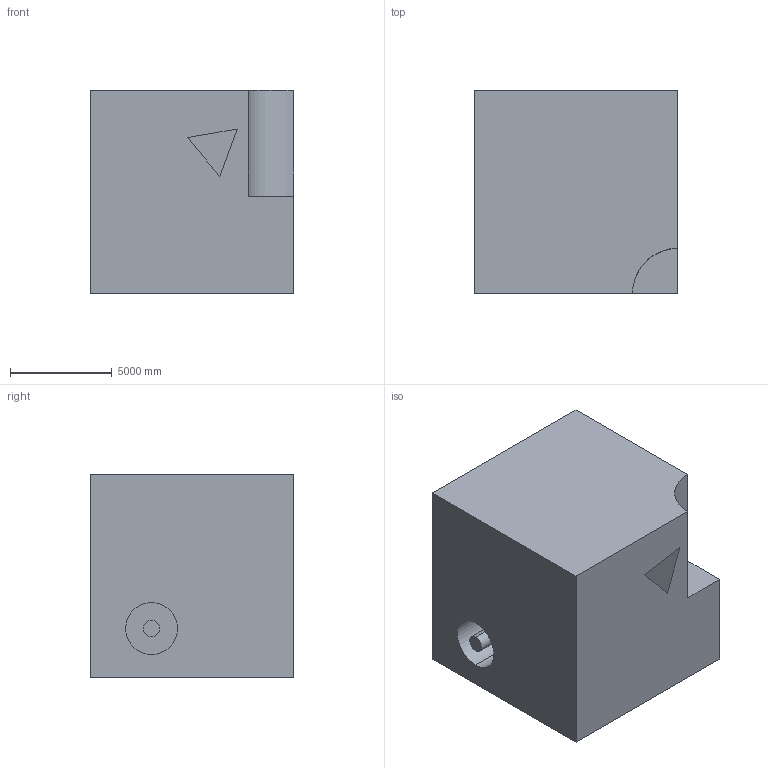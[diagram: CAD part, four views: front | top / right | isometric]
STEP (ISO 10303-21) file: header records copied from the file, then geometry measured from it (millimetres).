
FILE_DESCRIPTION (( 'STEP AP203' ), '1' );
FILE_NAME ('409.STEP', '2022-07-29T11:09:58', ( 'user' ), ( '' ), 'SwSTEP 2.0', 'SolidWorks 2021', '' );
FILE_SCHEMA (( 'CONFIG_CONTROL_DESIGN' ));
Length unit declared in the file: centimetre
Products named in the file (1): 409
Bounding box: 10000 x 10000 x 10000 mm (x, y, z)
Volume: 916323962534.7 mm3; surface area: 725488689.5 mm2
Topology: 1 solids, 1 shells, 26 faces, 57 edges, 38 vertices
Faces by surface type: plane 19, cylinder 7
Entity records: 792 total; most frequent: DIRECTION 125, CARTESIAN_POINT 122, ORIENTED_EDGE 114, EDGE_CURVE 57, LINE 43, VECTOR 43, AXIS2_PLACEMENT_3D 41, VERTEX_POINT 38
